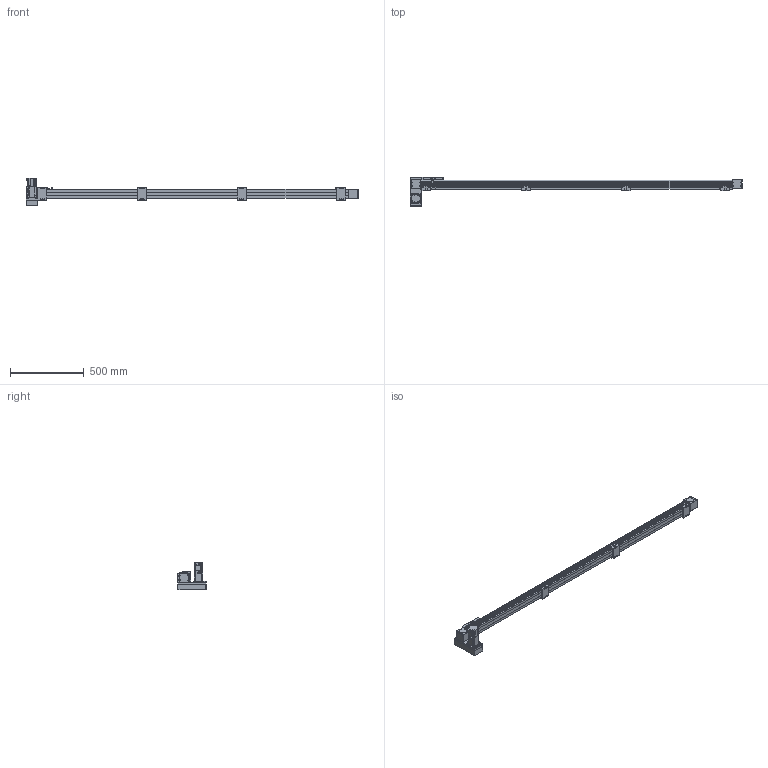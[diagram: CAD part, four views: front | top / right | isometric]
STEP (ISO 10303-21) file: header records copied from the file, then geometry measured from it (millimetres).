
FILE_DESCRIPTION(/* description */ ('STEP AP214'),/* implementation_level */ '2;1');
FILE_NAME(/* name */ 'SK60-P13-S1950-LD-T40-C1-N(0)',/* time_stamp */ '2023-04-06T04:39:30+02:00',/* author */ ('License CC BY-ND 4.0'),/* organization */ ('CADENAS'),/* preprocessor_version */ 'ST-DEVELOPER v19.3',/* originating_system */ 'PARTsolutions',/* authorisation */ ' ');
FILE_SCHEMA (('AUTOMOTIVE_DESIGN {1 0 10303 214 3 1 1}'));
Length unit declared in the file: millimetre
Products named in the file (10): SK60-P13-S1950-LD-T40-C1-N(0); PSC140-sensor; SK60-S450_seat; SK60-S450-BL-C1_slider; SK60_body3; SK60_body6; SK60-BL_body2; T40-p1; SK60-LD_fb; SK60-S1950-LD-C1_body
Assembly tree (18 placements, depth 2):
  SK60-P13-S1950-LD-T40-C1-N(0)
    PSC140-sensor  x3
    SK60-S450_seat  x4
    SK60-S450-BL-C1_slider
    SK60_body3  x3
    SK60_body6  x2
    SK60-BL_body2  x2
    T40-p1
    SK60-LD_fb
    SK60-S1950-LD-C1_body
Bounding box: 2255.5 x 199 x 189.7 mm (x, y, z)
Volume: 8829214.7 mm3; surface area: 1052445.2 mm2
Topology: 18 solids, 18 shells, 898 faces, 2244 edges, 1477 vertices
Faces by surface type: plane 572, cylinder 294, cone 30, torus 2
Full cylindrical faces by diameter (mm): 2.8 x3, 3.3 x4, 4 x2, 4.5 x30, 4.6 x3, 4.917 x24, 5 x6, 5.478 x4, 5.5 x27, 6.5 x8, 7 x2, 8 x4, 8.5 x4, 9.988 x4, 10 x16, 14 x1, 47 x3, 50 x2
Entity records: 18671 total; most frequent: DIRECTION 3188, CARTESIAN_POINT 3152, ORIENTED_EDGE 2940, EDGE_CURVE 1470, AXIS2_PLACEMENT_3D 1070, LINE 1048, VECTOR 1048, VERTEX_POINT 1034
